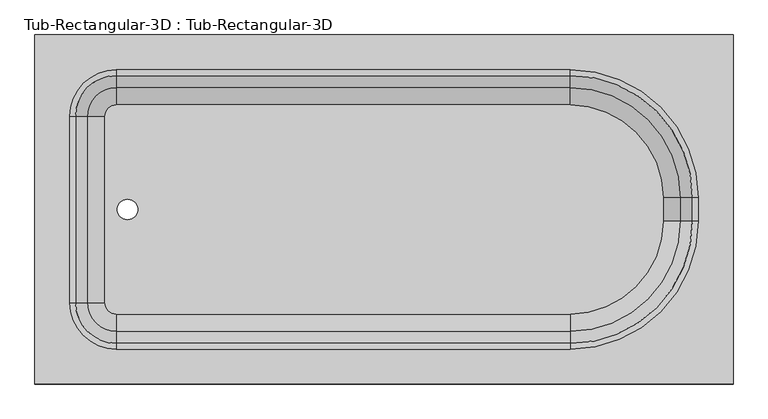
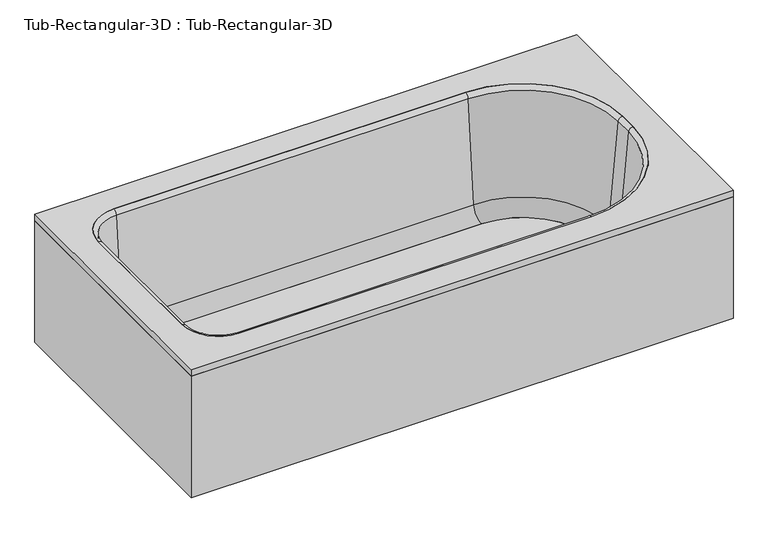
"""IFC4 building model written with IfcOpenShell, lengths in millimetres: flow terminal geometry, Tub-Rectangular-3D : Tub-Rectangular-3D."""

from ifc_helpers import new_model, si_unit, point, frame, frame_2d, origin, origin_with_axes, place, context, project, spatial, polyline, circle_curve, ellipse_curve, trimmed, segment, composite_curve, outline, extrude, source, transform, mapped, element, save
from ifc_brep_helpers import plane_surface, cylinder_surface, revolved_surface, advanced_brep


def tub_rectangular_3d_tub_rectangular_3d_7c57b2e9(model_context):
    return source(origin(), model_context, "Body", "SolidModel", [
        extrude(outline(polyline([(413.3970313, 938.2125), (413.3970313, 176.2125), (-1110.6029687, 176.2125), (-1110.6029687, 938.2125), (413.3970313, 938.2125)]), holes=[composite_curve([segment(trimmed(circle_curve(frame_2d((-932.8029687, 760.4125)), 101.6), [point((-932.8029687, 862.0125))], [point((-1034.4029687, 760.4125))], True, "CARTESIAN"), True, "CONTINUOUS"), segment(polyline([(-1034.4029687, 760.4125), (-1034.4029687, 354.0125)]), True, "CONTINUOUS"), segment(trimmed(circle_curve(frame_2d((-932.8029687, 354.0125)), 101.6), [point((-1034.4029687, 354.0125))], [point((-932.8029687, 252.4125))], True, "CARTESIAN"), True, "CONTINUOUS"), segment(polyline([(-932.8029687, 252.4125), (57.7970313, 252.4125)]), True, "CONTINUOUS"), segment(trimmed(circle_curve(frame_2d((57.7970313, 531.8125)), 279.4), [point((57.7970313, 252.4125))], [point((337.1970313, 531.8125))], True, "CARTESIAN"), True, "CONTINUOUS"), segment(polyline([(337.1970313, 531.8125), (337.1970313, 582.6125)]), True, "CONTINUOUS"), segment(trimmed(circle_curve(frame_2d((57.7970313, 582.6125)), 279.4), [point((337.1970313, 582.6125))], [point((57.7970313, 862.0125))], True, "CARTESIAN"), True, "CONTINUOUS"), segment(polyline([(57.7970313, 862.0125), (-932.8029687, 862.0125)]), True, "CONTINUOUS")], self_intersect=False)]), frame((0.0, 0.0, 361.95), z_axis=(0.0, 0.0, 1.0), x_axis=(1.0, 0.0, 0.0)), (0.0, 0.0, 1.0), 19.05),
        extrude(outline(polyline([(413.3970313, 938.2125), (413.3970313, 176.2125), (-1110.6029687, 176.2125), (-1110.6029687, 938.2125), (413.3970313, 938.2125)]), holes=[polyline([(394.3470313, 919.1625), (-1091.5529687, 919.1625), (-1091.5529687, 195.2625), (394.3470313, 195.2625), (394.3470313, 919.1625)])]), origin_with_axes(), (0.0, 0.0, 1.0), 361.95),
        extrude(outline(composite_curve([segment(trimmed(circle_curve(frame_2d((57.7970313, 582.6125)), 202.7964741), [point((57.7970313, 785.4089741))], [point((260.5935054, 582.6125))], False, "CARTESIAN"), True, "CONTINUOUS"), segment(polyline([(260.5935054, 582.6125), (260.5935054, 531.8125)]), True, "CONTINUOUS"), segment(trimmed(circle_curve(frame_2d((57.7970313, 531.8125)), 202.7964741), [point((260.5935054, 531.8125))], [point((57.7970313, 329.0160259))], False, "CARTESIAN"), True, "CONTINUOUS"), segment(polyline([(57.7970313, 329.0160259), (-932.8029687, 329.0160259)]), True, "CONTINUOUS"), segment(trimmed(circle_curve(frame_2d((-932.8029687, 354.0125)), 24.9964741), [point((-932.8029687, 329.0160259))], [point((-957.7994428, 354.0125))], False, "CARTESIAN"), True, "CONTINUOUS"), segment(polyline([(-957.7994428, 354.0125), (-957.7994428, 760.4125)]), True, "CONTINUOUS"), segment(trimmed(circle_curve(frame_2d((-932.8029687, 760.4125)), 24.9964741), [point((-957.7994428, 760.4125))], [point((-932.8029687, 785.4089741))], False, "CARTESIAN"), True, "CONTINUOUS"), segment(polyline([(-932.8029687, 785.4089741), (57.7970313, 785.4089741)]), True, "CONTINUOUS")], self_intersect=False), holes=[composite_curve([segment(trimmed(circle_curve(frame_2d((-908.510206, 557.2125)), 22.225), [point((-908.510206, 579.4375))], [point((-908.510206, 534.9875))], True, "CARTESIAN"), True, "CONTINUOUS"), segment(trimmed(circle_curve(frame_2d((-908.510206, 557.2125)), 22.225), [point((-908.510206, 534.9875))], [point((-908.510206, 579.4375))], True, "CARTESIAN"), True, "CONTINUOUS")], self_intersect=False)]), frame((0.0, 0.0, 16.863573), z_axis=(0.0, 0.0, 1.0), x_axis=(1.0, 0.0, 0.0)), (0.0, 0.0, 1.0), 19.05),
        advanced_brep(
        [(-995.7544608, 760.4125, 70.6929392), (-932.8029687, 823.3639921, 70.6929392), (-932.8029687, 849.5345035, 369.8232535), (-1021.9249722, 760.4125, 369.8232535), (-957.7994428, 760.4125, 35.913573), (-932.8029687, 785.4089741, 35.913573), (-957.7994428, 760.4125, 16.863573), (-932.8029687, 785.4089741, 16.863573), (-1034.4029687, 760.4125, 16.863573), (-932.8029687, 862.0125, 16.863573), (-1034.4029687, 760.4125, 381.0), (-932.8029687, 862.0125, 381.0), (-1021.9249722, 354.0125, 369.8232535), (-995.7544608, 354.0125, 70.6929392), (-957.7994428, 354.0125, 35.913573), (-957.7994428, 354.0125, 16.863573), (-1034.4029687, 354.0125, 16.863573), (-1034.4029687, 354.0125, 381.0), (-932.8029687, 291.0610079, 70.6929392), (-932.8029687, 264.8904965, 369.8232535), (-932.8029687, 329.0160259, 35.913573), (-932.8029687, 329.0160259, 16.863573), (-932.8029687, 252.4125, 16.863573), (-932.8029687, 252.4125, 381.0), (57.7970313, 264.8904965, 369.8232535), (57.7970313, 291.0610079, 70.6929392), (57.7970313, 329.0160259, 35.913573), (57.7970313, 329.0160259, 16.863573), (57.7970313, 252.4125, 16.863573), (57.7970313, 252.4125, 381.0), (298.5485234, 531.8125, 70.6929392), (324.7190348, 531.8125, 369.8232535), (260.5935054, 531.8125, 35.913573), (260.5935054, 531.8125, 16.863573), (337.1970313, 531.8125, 16.863573), (337.1970313, 531.8125, 381.0), (324.7190348, 582.6125, 369.8232535), (298.5485234, 582.6125, 70.6929392), (260.5935054, 582.6125, 35.913573), (260.5935054, 582.6125, 16.863573), (337.1970313, 582.6125, 16.863573), (337.1970313, 582.6125, 381.0), (57.7970313, 823.3639921, 70.6929392), (57.7970313, 849.5345035, 369.8232535), (57.7970313, 785.4089741, 35.913573), (57.7970313, 785.4089741, 16.863573), (57.7970313, 862.0125, 16.863573), (57.7970313, 862.0125, 381.0)],
        [
            (0, 1, circle_curve(frame((-932.8029687, 760.4125, 70.6929392), z_axis=(0.0, 0.0, -1.0), x_axis=(0.0, 1.0, 0.0)), 62.9514921)),
            (1, 2),
            (2, 3, circle_curve(frame((-932.8029687, 760.4125, 369.8232535), z_axis=(0.0, 0.0, 1.0), x_axis=(0.0, 1.0, 0.0)), 89.1220035)),
            (3, 0),
            (4, 5, circle_curve(frame((-932.8029687, 760.4125, 35.913573), z_axis=(0.0, 0.0, -1.0), x_axis=(0.0, 1.0, 0.0)), 24.9964741)),
            (5, 1, circle_curve(frame((-932.8029687, 785.4089741, 74.013573), z_axis=(1.0, 0.0, 0.0), x_axis=(0.0, -1.0, 0.0)), 38.1)),
            (0, 4, circle_curve(frame((-957.7994428, 760.4125, 74.013573), z_axis=(0.0, -1.0, 0.0), x_axis=(1.0, 0.0, 0.0)), 38.1)),
            (6, 7, circle_curve(frame((-932.8029687, 760.4125, 16.863573), z_axis=(0.0, 0.0, -1.0), x_axis=(0.0, 1.0, 0.0)), 24.9964741)),
            (7, 5),
            (4, 6),
            (8, 9, circle_curve(frame((-932.8029687, 760.4125, 16.863573), z_axis=(0.0, 0.0, -1.0), x_axis=(0.0, 1.0, 0.0)), 101.6)),
            (9, 7),
            (6, 8),
            (10, 11, circle_curve(frame((-932.8029687, 760.4125, 381.0), z_axis=(0.0, 0.0, -1.0), x_axis=(0.0, 1.0, 0.0)), 101.6)),
            (11, 9),
            (8, 10),
            (2, 11, circle_curve(frame((-932.8029687, 862.0125, 368.4462547), z_axis=(-1.0, 0.0, 0.0), x_axis=(0.0, -1.0, 0.0)), 12.5537453)),
            (10, 3, circle_curve(frame((-1034.4029687, 760.4125, 368.4462547), z_axis=(0.0, 1.0, 0.0), x_axis=(1.0, 0.0, 0.0)), 12.5537453)),
            (3, 12),
            (12, 13),
            (13, 0),
            (13, 14, circle_curve(frame((-957.7994428, 354.0125, 74.013573), z_axis=(0.0, -1.0, 0.0), x_axis=(1.0, 0.0, 0.0)), 38.1)),
            (14, 4),
            (14, 15),
            (15, 6),
            (15, 16),
            (16, 8),
            (16, 17),
            (17, 10),
            (17, 12, circle_curve(frame((-1034.4029687, 354.0125, 368.4462547), z_axis=(0.0, 1.0, 0.0), x_axis=(1.0, 0.0, 0.0)), 12.5537453)),
            (18, 13, circle_curve(frame((-932.8029687, 354.0125, 70.6929392), z_axis=(0.0, 0.0, -1.0), x_axis=(-1.0, 0.0, 0.0)), 62.9514921)),
            (12, 19, circle_curve(frame((-932.8029687, 354.0125, 369.8232535), z_axis=(0.0, 0.0, 1.0), x_axis=(-1.0, 0.0, 0.0)), 89.1220035)),
            (19, 18),
            (20, 14, circle_curve(frame((-932.8029687, 354.0125, 35.913573), z_axis=(0.0, 0.0, -1.0), x_axis=(-1.0, 0.0, 0.0)), 24.9964741)),
            (18, 20, circle_curve(frame((-932.8029687, 329.0160259, 74.013573), z_axis=(1.0, 0.0, 0.0), x_axis=(0.0, 1.0, 0.0)), 38.1)),
            (21, 15, circle_curve(frame((-932.8029687, 354.0125, 16.863573), z_axis=(0.0, 0.0, -1.0), x_axis=(-1.0, 0.0, 0.0)), 24.9964741)),
            (20, 21),
            (22, 16, circle_curve(frame((-932.8029687, 354.0125, 16.863573), z_axis=(0.0, 0.0, -1.0), x_axis=(-1.0, 0.0, 0.0)), 101.6)),
            (21, 22),
            (23, 17, circle_curve(frame((-932.8029687, 354.0125, 381.0), z_axis=(0.0, 0.0, -1.0), x_axis=(-1.0, 0.0, 0.0)), 101.6)),
            (22, 23),
            (23, 19, circle_curve(frame((-932.8029687, 252.4125, 368.4462547), z_axis=(-1.0, 0.0, 0.0), x_axis=(0.0, 1.0, 0.0)), 12.5537453)),
            (19, 24),
            (24, 25),
            (25, 18),
            (25, 26, circle_curve(frame((57.7970313, 329.0160259, 74.013573), z_axis=(1.0, 0.0, 0.0), x_axis=(0.0, 1.0, 0.0)), 38.1)),
            (26, 20),
            (26, 27),
            (27, 21),
            (27, 28),
            (28, 22),
            (28, 29),
            (29, 23),
            (29, 24, circle_curve(frame((57.7970313, 252.4125, 368.4462547), z_axis=(-1.0, 0.0, 0.0), x_axis=(0.0, 1.0, 0.0)), 12.5537453)),
            (30, 25, circle_curve(frame((57.7970313, 531.8125, 70.6929392), z_axis=(0.0, 0.0, -1.0), x_axis=(0.0, -1.0, 0.0)), 240.7514921)),
            (24, 31, circle_curve(frame((57.7970313, 531.8125, 369.8232535), z_axis=(0.0, 0.0, 1.0), x_axis=(0.0, -1.0, 0.0)), 266.9220035)),
            (31, 30),
            (32, 26, circle_curve(frame((57.7970313, 531.8125, 35.913573), z_axis=(0.0, 0.0, -1.0), x_axis=(0.0, -1.0, 0.0)), 202.7964741)),
            (30, 32, circle_curve(frame((260.5935054, 531.8125, 74.013573), z_axis=(0.0, 1.0, 0.0), x_axis=(-1.0, 0.0, 0.0)), 38.1)),
            (33, 27, circle_curve(frame((57.7970313, 531.8125, 16.863573), z_axis=(0.0, 0.0, -1.0), x_axis=(0.0, -1.0, 0.0)), 202.7964741)),
            (32, 33),
            (34, 28, circle_curve(frame((57.7970313, 531.8125, 16.863573), z_axis=(0.0, 0.0, -1.0), x_axis=(0.0, -1.0, 0.0)), 279.4)),
            (33, 34),
            (35, 29, circle_curve(frame((57.7970313, 531.8125, 381.0), z_axis=(0.0, 0.0, -1.0), x_axis=(0.0, -1.0, 0.0)), 279.4)),
            (34, 35),
            (35, 31, circle_curve(frame((337.1970313, 531.8125, 368.4462547), z_axis=(0.0, -1.0, 0.0), x_axis=(-1.0, 0.0, 0.0)), 12.5537453)),
            (31, 36),
            (36, 37),
            (37, 30),
            (37, 38, circle_curve(frame((260.5935054, 582.6125, 74.013573), z_axis=(0.0, 1.0, 0.0), x_axis=(-1.0, 0.0, 0.0)), 38.1)),
            (38, 32),
            (38, 39),
            (39, 33),
            (39, 40),
            (40, 34),
            (40, 41),
            (41, 35),
            (41, 36, circle_curve(frame((337.1970313, 582.6125, 368.4462547), z_axis=(0.0, -1.0, 0.0), x_axis=(-1.0, 0.0, 0.0)), 12.5537453)),
            (42, 37, circle_curve(frame((57.7970313, 582.6125, 70.6929392), z_axis=(0.0, 0.0, -1.0), x_axis=(1.0, 0.0, 0.0)), 240.7514921)),
            (36, 43, circle_curve(frame((57.7970313, 582.6125, 369.8232535), z_axis=(0.0, 0.0, 1.0), x_axis=(1.0, 0.0, 0.0)), 266.9220035)),
            (43, 42),
            (44, 38, circle_curve(frame((57.7970313, 582.6125, 35.913573), z_axis=(0.0, 0.0, -1.0), x_axis=(1.0, 0.0, 0.0)), 202.7964741)),
            (42, 44, circle_curve(frame((57.7970313, 785.4089741, 74.013573), z_axis=(-1.0, 0.0, 0.0), x_axis=(0.0, -1.0, 0.0)), 38.1)),
            (45, 39, circle_curve(frame((57.7970313, 582.6125, 16.863573), z_axis=(0.0, 0.0, -1.0), x_axis=(1.0, 0.0, 0.0)), 202.7964741)),
            (44, 45),
            (46, 40, circle_curve(frame((57.7970313, 582.6125, 16.863573), z_axis=(0.0, 0.0, -1.0), x_axis=(1.0, 0.0, 0.0)), 279.4)),
            (45, 46),
            (47, 41, circle_curve(frame((57.7970313, 582.6125, 381.0), z_axis=(0.0, 0.0, -1.0), x_axis=(1.0, 0.0, 0.0)), 279.4)),
            (46, 47),
            (47, 43, circle_curve(frame((57.7970313, 862.0125, 368.4462547), z_axis=(1.0, 0.0, 0.0), x_axis=(0.0, -1.0, 0.0)), 12.5537453)),
            (43, 2),
            (1, 42),
            (5, 44),
            (7, 45),
            (9, 46),
            (11, 47),
        ],
        [
            revolved_surface(polyline([(-932.8029687, 849.5345035, 369.8232535), (-932.8029687, 823.3639921, 70.6929392)]), (-932.8029687, 760.4125, 381.0), (0.0, 0.0, 1.0)),
            revolved_surface(trimmed(ellipse_curve(frame((-932.8029687, 785.4089741, 74.013573), z_axis=(-1.0, 0.0, 0.0), x_axis=(0.0, -1.0, 0.0)), 38.1, 38.1), [point((-932.8029687, 823.3639921, 70.6929392))], [point((-932.8029687, 785.4089741, 35.913573))], True, "CARTESIAN"), (-932.8029687, 760.4125, 381.0), (0.0, 0.0, 1.0)),
            revolved_surface(polyline([(-932.8029687, 785.4089741, 35.913572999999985), (-932.8029687, 785.4089741, 16.863572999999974)]), (-932.8029687, 760.4125, 381.0), (0.0, 0.0, 1.0)),
            plane_surface(frame((-932.8029687, 760.4125, 16.863573), z_axis=(0.0, 0.0, -1.0), x_axis=(0.0, 1.0, 0.0))),
            cylinder_surface(frame((-932.8029687, 760.4125, 381.0), z_axis=(0.0, 0.0, 1.0), x_axis=(0.0, 1.0, 0.0)), 101.6),
            revolved_surface(trimmed(ellipse_curve(frame((-932.8029687, 862.0125, 368.4462547), z_axis=(1.0, 0.0, 0.0), x_axis=(0.0, -1.0, 0.0)), 12.5537453, 12.5537453), [point((-932.8029687, 862.0125, 381.0))], [point((-932.8029687, 849.5345035, 369.8232535))], True, "CARTESIAN"), (-932.8029687, 760.4125, 381.0), (0.0, 0.0, 1.0)),
            plane_surface(frame((-1021.9249722, 760.4125, 369.8232535), z_axis=(0.9961946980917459, 0.0, 0.08715574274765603), x_axis=(0.0, -1.0, 0.0))),
            revolved_surface(polyline([(-919.6994427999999, 354.0125, 74.013573), (-919.6994427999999, 760.4125, 74.013573)]), (-957.7994428, 760.4125, 74.013573), (0.0, -1.0, 0.0)),
            plane_surface(frame((-957.7994428, 760.4125, 35.913573), z_axis=(1.0, 0.0, 0.0), x_axis=(0.0, -1.0, 0.0))),
            plane_surface(frame((-957.7994428, 760.4125, 16.863573), z_axis=(0.0, 0.0, -1.0), x_axis=(0.0, -1.0, 0.0))),
            plane_surface(frame((-1034.4029687, 760.4125, 16.863573), z_axis=(-1.0, 0.0, 0.0), x_axis=(0.0, -1.0, 0.0))),
            cylinder_surface(frame((-1034.4029687, 760.4125, 368.4462547), z_axis=(0.0, 1.0, 0.0), x_axis=(1.0, 0.0, 0.0)), 12.5537453),
            revolved_surface(polyline([(-1021.9249722, 354.0125, 369.8232535), (-995.7544608, 354.0125, 70.6929392)]), (-932.8029687, 354.0125, 381.0), (0.0, 0.0, 1.0)),
            revolved_surface(trimmed(ellipse_curve(frame((-957.7994428, 354.0125, 74.013573), z_axis=(0.0, -1.0, 0.0), x_axis=(1.0, 0.0, 0.0)), 38.1, 38.1), [point((-995.7544608, 354.0125, 70.6929392))], [point((-957.7994428, 354.0125, 35.913573))], True, "CARTESIAN"), (-932.8029687, 354.0125, 381.0), (0.0, 0.0, 1.0)),
            revolved_surface(polyline([(-957.7994428, 354.0125, 35.913572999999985), (-957.7994428, 354.0125, 16.863572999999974)]), (-932.8029687, 354.0125, 381.0), (0.0, 0.0, 1.0)),
            plane_surface(frame((-932.8029687, 354.0125, 16.863573), z_axis=(0.0, 0.0, -1.0), x_axis=(-1.0, 0.0, 0.0))),
            cylinder_surface(frame((-932.8029687, 354.0125, 381.0), z_axis=(0.0, 0.0, 1.0), x_axis=(-1.0, 0.0, 0.0)), 101.6),
            revolved_surface(trimmed(ellipse_curve(frame((-1034.4029687, 354.0125, 368.4462547), z_axis=(0.0, 1.0, 0.0), x_axis=(1.0, 0.0, 0.0)), 12.5537453, 12.5537453), [point((-1034.4029687, 354.0125, 381.0))], [point((-1021.9249722, 354.0125, 369.8232535))], True, "CARTESIAN"), (-932.8029687, 354.0125, 381.0), (0.0, 0.0, 1.0)),
            plane_surface(frame((-932.8029687, 264.8904965, 369.8232535), z_axis=(0.0, 0.996194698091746, 0.08715574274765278), x_axis=(1.0, 0.0, 0.0))),
            revolved_surface(polyline([(57.79703129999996, 367.1160259, 74.013573), (-932.8029687, 367.1160259, 74.013573)]), (-932.8029687, 329.0160259, 74.013573), (1.0, 0.0, 0.0)),
            plane_surface(frame((-932.8029687, 329.0160259, 35.913573), z_axis=(0.0, 1.0, 0.0), x_axis=(1.0, 0.0, 0.0))),
            plane_surface(frame((-932.8029687, 329.0160259, 16.863573), z_axis=(0.0, 0.0, -1.0), x_axis=(1.0, 0.0, 0.0))),
            plane_surface(frame((-932.8029687, 252.4125, 16.863573), z_axis=(0.0, -1.0, 0.0), x_axis=(1.0, 0.0, 0.0))),
            cylinder_surface(frame((-932.8029687, 252.4125, 368.4462547), z_axis=(-1.0, 0.0, 0.0), x_axis=(0.0, 1.0, 0.0)), 12.5537453),
            revolved_surface(polyline([(57.7970313, 264.8904965, 369.8232535), (57.7970313, 291.0610079, 70.6929392)]), (57.7970313, 531.8125, 381.0), (0.0, 0.0, 1.0)),
            revolved_surface(trimmed(ellipse_curve(frame((57.7970313, 329.0160259, 74.013573), z_axis=(1.0, 0.0, 0.0), x_axis=(0.0, 1.0, 0.0)), 38.1, 38.1), [point((57.7970313, 291.0610079, 70.6929392))], [point((57.7970313, 329.0160259, 35.913573))], True, "CARTESIAN"), (57.7970313, 531.8125, 381.0), (0.0, 0.0, 1.0)),
            revolved_surface(polyline([(57.7970313, 329.0160259, 35.913572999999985), (57.7970313, 329.0160259, 16.863572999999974)]), (57.7970313, 531.8125, 381.0), (0.0, 0.0, 1.0)),
            plane_surface(frame((57.7970313, 531.8125, 16.863573), z_axis=(0.0, 0.0, -1.0), x_axis=(0.0, -1.0, 0.0))),
            cylinder_surface(frame((57.7970313, 531.8125, 381.0), z_axis=(0.0, 0.0, 1.0), x_axis=(0.0, -1.0, 0.0)), 279.4),
            revolved_surface(trimmed(ellipse_curve(frame((57.7970313, 252.4125, 368.4462547), z_axis=(-1.0, 0.0, 0.0), x_axis=(0.0, 1.0, 0.0)), 12.5537453, 12.5537453), [point((57.7970313, 252.4125, 381.0))], [point((57.7970313, 264.8904965, 369.8232535))], True, "CARTESIAN"), (57.7970313, 531.8125, 381.0), (0.0, 0.0, 1.0)),
            plane_surface(frame((324.7190348, 531.8125, 369.8232535), z_axis=(-0.9961946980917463, 0.0, 0.08715574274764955), x_axis=(0.0, 1.0, 0.0))),
            revolved_surface(polyline([(222.49350540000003, 582.6125, 74.013573), (222.49350540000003, 531.8125, 74.013573)]), (260.5935054, 531.8125, 74.013573), (0.0, 1.0, 0.0)),
            plane_surface(frame((260.5935054, 531.8125, 35.913573), z_axis=(-1.0, 0.0, 0.0), x_axis=(0.0, 1.0, 0.0))),
            plane_surface(frame((260.5935054, 531.8125, 16.863573), z_axis=(0.0, 0.0, -1.0), x_axis=(0.0, 1.0, 0.0))),
            plane_surface(frame((337.1970313, 531.8125, 16.863573), z_axis=(1.0, 0.0, 0.0), x_axis=(0.0, 1.0, 0.0))),
            cylinder_surface(frame((337.1970313, 531.8125, 368.4462547), z_axis=(0.0, -1.0, 0.0), x_axis=(-1.0, 0.0, 0.0)), 12.5537453),
            revolved_surface(polyline([(324.7190348, 582.6125, 369.8232535), (298.5485234, 582.6125, 70.6929392)]), (57.7970313, 582.6125, 381.0), (0.0, 0.0, 1.0)),
            revolved_surface(trimmed(ellipse_curve(frame((260.5935054, 582.6125, 74.013573), z_axis=(0.0, 1.0, 0.0), x_axis=(-1.0, 0.0, 0.0)), 38.1, 38.1), [point((298.5485234, 582.6125, 70.6929392))], [point((260.5935054, 582.6125, 35.913573))], True, "CARTESIAN"), (57.7970313, 582.6125, 381.0), (0.0, 0.0, 1.0)),
            revolved_surface(polyline([(260.5935054, 582.6125, 35.913572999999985), (260.5935054, 582.6125, 16.863572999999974)]), (57.7970313, 582.6125, 381.0), (0.0, 0.0, 1.0)),
            plane_surface(frame((57.7970313, 582.6125, 16.863573), z_axis=(0.0, 0.0, -1.0), x_axis=(1.0, 0.0, 0.0))),
            cylinder_surface(frame((57.7970313, 582.6125, 381.0), z_axis=(0.0, 0.0, 1.0), x_axis=(1.0, 0.0, 0.0)), 279.4),
            revolved_surface(trimmed(ellipse_curve(frame((337.1970313, 582.6125, 368.4462547), z_axis=(0.0, -1.0, 0.0), x_axis=(-1.0, 0.0, 0.0)), 12.5537453, 12.5537453), [point((337.1970313, 582.6125, 381.0))], [point((324.7190348, 582.6125, 369.8232535))], True, "CARTESIAN"), (57.7970313, 582.6125, 381.0), (0.0, 0.0, 1.0)),
            plane_surface(frame((57.7970313, 849.5345035, 369.8232535), z_axis=(0.0, -0.996194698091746, 0.08715574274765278), x_axis=(-1.0, 0.0, 0.0))),
            revolved_surface(polyline([(-932.8029687, 747.3089741, 74.013573), (57.7970313, 747.3089741, 74.013573)]), (57.7970313, 785.4089741, 74.013573), (-1.0, 0.0, 0.0)),
            plane_surface(frame((57.7970313, 785.4089741, 35.913573), z_axis=(0.0, -1.0, 0.0), x_axis=(-1.0, 0.0, 0.0))),
            plane_surface(frame((57.7970313, 785.4089741, 16.863573), z_axis=(0.0, 0.0, -1.0), x_axis=(-1.0, 0.0, 0.0))),
            plane_surface(frame((57.7970313, 862.0125, 16.863573), z_axis=(0.0, 1.0, 0.0), x_axis=(-1.0, 0.0, 0.0))),
            cylinder_surface(frame((57.7970313, 862.0125, 368.4462547), z_axis=(1.0, 0.0, 0.0), x_axis=(0.0, -1.0, 0.0)), 12.5537453),
        ],
        [
            (0, [[1, 2, 3, 4]]),
            (1, [[5, 6, -1, 7]]),
            (2, [[8, 9, -5, 10]]),
            (3, [[11, 12, -8, 13]]),
            (4, [[14, 15, -11, 16]]),
            (5, [[-3, 17, -14, 18]]),
            (6, [[-4, 19, 20, 21]]),
            (7, [[-7, -21, 22, 23]]),
            (8, [[-10, -23, 24, 25]]),
            (9, [[-13, -25, 26, 27]]),
            (10, [[-16, -27, 28, 29]]),
            (11, [[-18, -29, 30, -19]]),
            (12, [[31, -20, 32, 33]]),
            (13, [[34, -22, -31, 35]]),
            (14, [[36, -24, -34, 37]]),
            (15, [[38, -26, -36, 39]]),
            (16, [[40, -28, -38, 41]]),
            (17, [[-32, -30, -40, 42]]),
            (18, [[-33, 43, 44, 45]]),
            (19, [[-35, -45, 46, 47]]),
            (20, [[-37, -47, 48, 49]]),
            (21, [[-39, -49, 50, 51]]),
            (22, [[-41, -51, 52, 53]]),
            (23, [[-42, -53, 54, -43]]),
            (24, [[55, -44, 56, 57]]),
            (25, [[58, -46, -55, 59]]),
            (26, [[60, -48, -58, 61]]),
            (27, [[62, -50, -60, 63]]),
            (28, [[64, -52, -62, 65]]),
            (29, [[-56, -54, -64, 66]]),
            (30, [[-57, 67, 68, 69]]),
            (31, [[-59, -69, 70, 71]]),
            (32, [[-61, -71, 72, 73]]),
            (33, [[-63, -73, 74, 75]]),
            (34, [[-65, -75, 76, 77]]),
            (35, [[-66, -77, 78, -67]]),
            (36, [[79, -68, 80, 81]]),
            (37, [[82, -70, -79, 83]]),
            (38, [[84, -72, -82, 85]]),
            (39, [[86, -74, -84, 87]]),
            (40, [[88, -76, -86, 89]]),
            (41, [[-80, -78, -88, 90]]),
            (42, [[-81, 91, -2, 92]]),
            (43, [[-83, -92, -6, 93]]),
            (44, [[-85, -93, -9, 94]]),
            (45, [[-87, -94, -12, 95]]),
            (46, [[-89, -95, -15, 96]]),
            (47, [[-90, -96, -17, -91]]),
        ],
    ),
    ])


if __name__ == "__main__":
    model = new_model("IFC4")
    model_context = context("Model", 3, world=origin())
    ifc_project = project(units=[si_unit("LENGTHUNIT", "METRE", prefix="MILLI")], contexts=[model_context])
    site = spatial("IfcSite", under=ifc_project)
    building = spatial("IfcBuilding", under=site)
    placement = place(None, origin())
    tub_rectangular_3d_tub_rectangular_3d_shape = tub_rectangular_3d_tub_rectangular_3d_7c57b2e9(model_context)
    element("IfcFlowTerminal", 1, ObjectType="Tub-Rectangular-3D : Tub-Rectangular-3D", at=placement, inside=building, context=model_context, shape_type="MappedRepresentation", body=[
        mapped(tub_rectangular_3d_tub_rectangular_3d_shape, transform((0.0, 0.0, 0.0), x_axis=(1.0, 0.0, 0.0), y_axis=(0.0, 1.0, 0.0), z_axis=(0.0, 0.0, 1.0))),
    ])
    save(model, "model.ifc")
